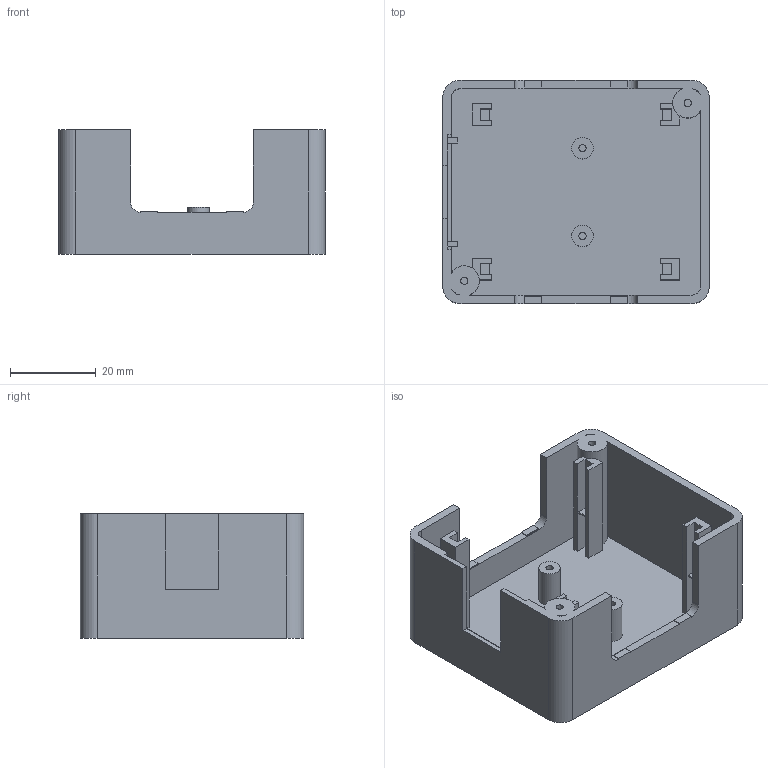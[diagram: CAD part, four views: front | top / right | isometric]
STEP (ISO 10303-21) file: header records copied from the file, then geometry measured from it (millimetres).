
FILE_DESCRIPTION(('Open CASCADE Model'),'2;1');
FILE_NAME('Open CASCADE Shape Model','2026-11-08T19:31:44',('Author'),( 'Open CASCADE'),'Open CASCADE STEP processor 7.8','Open CASCADE 7.8' ,'Unknown');
FILE_SCHEMA(('AUTOMOTIVE_DESIGN { 1 0 10303 214 1 1 1 1 }'));
Length unit declared in the file: millimetre
Products named in the file (1): Open CASCADE STEP translator 7.8 1
Bounding box: 62 x 52 x 29 mm (x, y, z)
Volume: 18884.3 mm3; surface area: 19160.8 mm2
Topology: 1 solids, 1 shells, 136 faces, 368 edges, 244 vertices
Faces by surface type: plane 114, cylinder 22
Full cylindrical faces by diameter (mm): 1.7 x4, 5 x2
Entity records: 8780 total; most frequent: CARTESIAN_POINT 1880, DIRECTION 1116, ORIENTED_EDGE 736, PCURVE 736, DEFINITIONAL_REPRESENTATION 736, LINE 715, VECTOR 715, EDGE_CURVE 368
